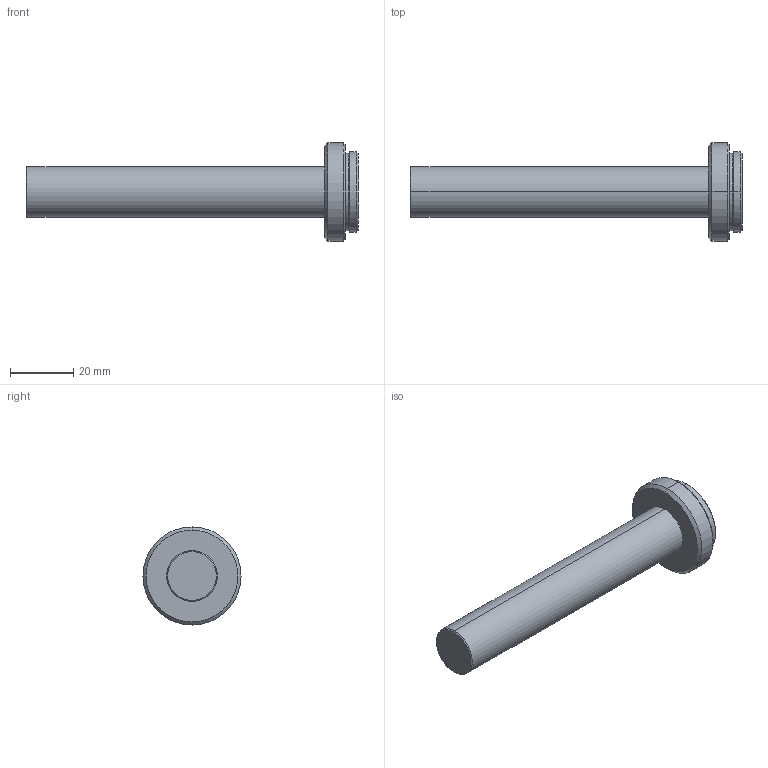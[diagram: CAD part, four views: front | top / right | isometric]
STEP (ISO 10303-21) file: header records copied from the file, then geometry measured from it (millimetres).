
FILE_DESCRIPTION (( 'STEP AP203' ), '1' );
FILE_NAME ('VS-TC5-110.STEP', '2020-02-14T05:57:55', ( '' ), ( '' ), 'SwSTEP 2.0', 'SolidWorks 2017', '' );
FILE_SCHEMA (( 'CONFIG_CONTROL_DESIGN' ));
Length unit declared in the file: millimetre
Products named in the file (1): VS-TC5-110
Bounding box: 104.9 x 31 x 31 mm (x, y, z)
Volume: 25799.3 mm3; surface area: 7123.6 mm2
Topology: 1 solids, 1 shells, 22 faces, 42 edges, 24 vertices
Faces by surface type: cone 10, cylinder 8, plane 4
Entity records: 631 total; most frequent: DIRECTION 112, CARTESIAN_POINT 89, ORIENTED_EDGE 84, AXIS2_PLACEMENT_3D 47, EDGE_CURVE 42, VERTEX_POINT 24, EDGE_LOOP 24, CIRCLE 24
